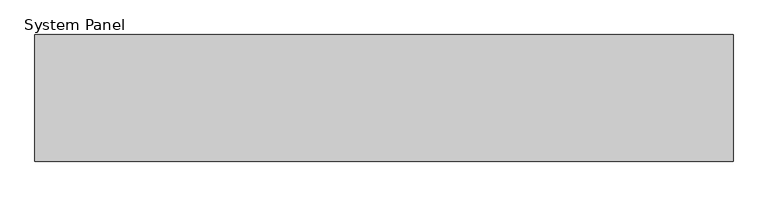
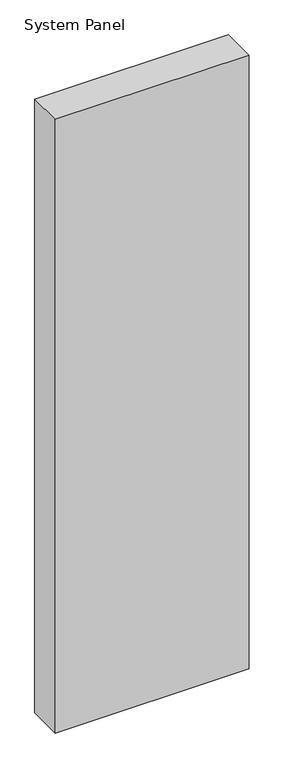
"""IFC4 building model written with IfcOpenShell, lengths in millimetres: plate geometry, System Panel : MetecnoPanel_200mm_Plain_Surfmist."""

from ifc_helpers import new_model, si_unit, origin, origin_with_axes, place, context, project, spatial, polyline, outline, extrude, source, transform, mapped, element, save


def system_panel_5eaa5fa1(model_context):
    return source(origin(), model_context, "Body", "SweptSolid", [
        extrude(outline(polyline([(550.0, -200.0), (-550.0, -200.0), (-550.0, 0.0), (550.0, 0.0), (550.0, -200.0)])), origin_with_axes(), (0.0, 0.0, 1.0), 3679.9704237),
    ])


if __name__ == "__main__":
    model = new_model("IFC4")
    model_context = context("Model", 3, world=origin())
    ifc_project = project(units=[si_unit("LENGTHUNIT", "METRE", prefix="MILLI")], contexts=[model_context])
    site = spatial("IfcSite", under=ifc_project)
    building = spatial("IfcBuilding", under=site)
    placement = place(None, origin())
    system_panel_shape = system_panel_5eaa5fa1(model_context)
    element("IfcPlate", 1, ObjectType="System Panel : MetecnoPanel_200mm_Plain_Surfmist", at=placement, inside=building, context=model_context, shape_type="MappedRepresentation", body=[
        mapped(system_panel_shape, transform((0.0, 0.0, 0.0), x_axis=(1.0, 0.0, 0.0), y_axis=(0.0, 1.0, 0.0), z_axis=(0.0, 0.0, 1.0))),
    ])
    save(model, "model.ifc")
